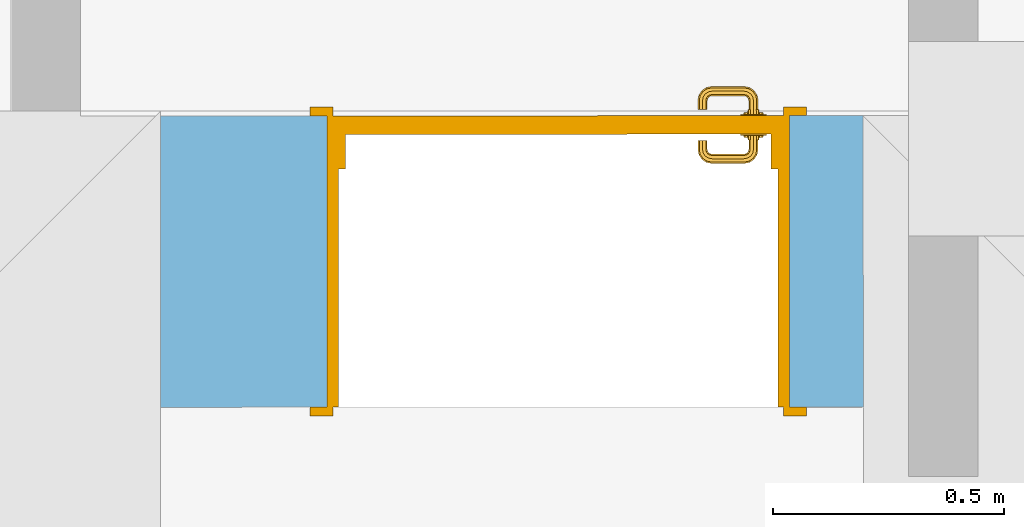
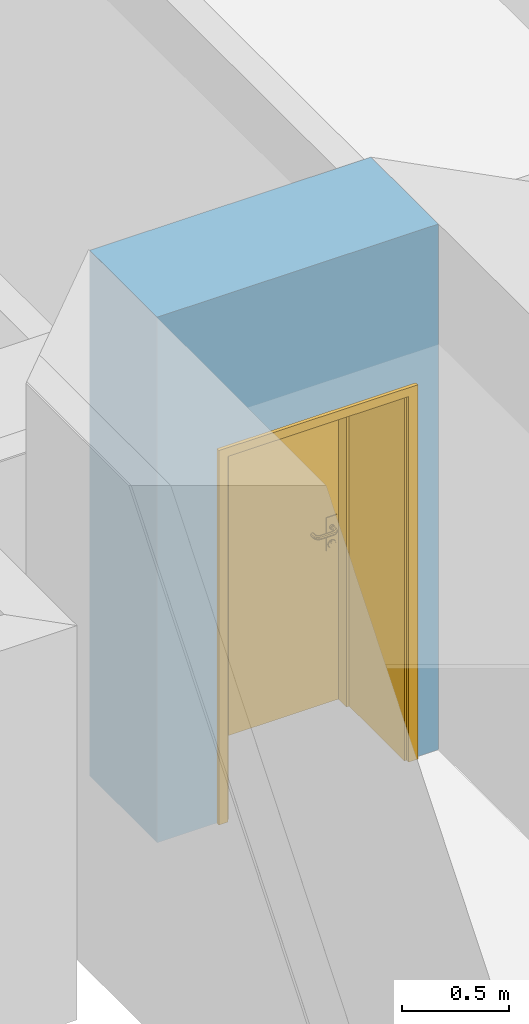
# One storey, part 47 of 127: 1 door, 1 opening, plus 1 element that does not belong to this part.
"""IFC2X3 building model written with IfcOpenShell, lengths in millimetres."""

from ifc_helpers import new_model, entity, si_unit, converted_unit, derived_unit, money_unit, direction, frame, origin_with_axes, origin_2d_with_axis, place, context, subcontext, project, spatial, polyline, rectangle, outline, extrude, open_shell, faceted_brep, surface_model, material, layer, layer_set, layer_usage, type_object, element, fill, save


model = new_model("IFC2X3")

# Units and contexts
model_context = context("Model", 3, precision=1e-05, world=origin_with_axes(), true_north=direction((0.0, 1.0)))
body_context = subcontext(model_context, "Body", "Model", "MODEL_VIEW")
ifc_project = project(units=[si_unit("LENGTHUNIT", "METRE", prefix="MILLI"), si_unit("AREAUNIT", "SQUARE_METRE"), si_unit("VOLUMEUNIT", "CUBIC_METRE"), converted_unit("PLANEANGLEUNIT", "DEGREE", entity("IfcPlaneAngleMeasure", 0.0174532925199), si_unit("PLANEANGLEUNIT", "RADIAN"), dimensions=[0, 0, 0, 0, 0, 0, 0]), si_unit("SOLIDANGLEUNIT", "STERADIAN"), money_unit("EUR"), converted_unit("TIMEUNIT", "Year", entity("IfcTimeMeasure", 31556926.0), si_unit("TIMEUNIT", "SECOND"), dimensions=[0, 0, 1, 0, 0, 0, 0]), si_unit("MASSUNIT", "GRAM", prefix="KILO"), si_unit("THERMODYNAMICTEMPERATUREUNIT", "DEGREE_CELSIUS"), si_unit("LUMINOUSINTENSITYUNIT", "LUMEN"), si_unit("ENERGYUNIT", "JOULE", prefix="MEGA"), derived_unit("THERMALCONDUCTANCEUNIT", [(si_unit("POWERUNIT", "WATT"), 1), (si_unit("LENGTHUNIT", "METRE"), -1), (si_unit("THERMODYNAMICTEMPERATUREUNIT", "KELVIN"), -1)]), derived_unit("SPECIFICHEATCAPACITYUNIT", [(si_unit("ENERGYUNIT", "JOULE"), 1), (si_unit("MASSUNIT", "GRAM", prefix="KILO"), -1), (si_unit("THERMODYNAMICTEMPERATUREUNIT", "KELVIN"), -1)]), derived_unit("MASSDENSITYUNIT", [(si_unit("MASSUNIT", "GRAM", prefix="KILO"), 1), (si_unit("VOLUMEUNIT", "CUBIC_METRE"), -1)])], contexts=[model_context])

# Site, building, storey
site_placement = place(None, origin_with_axes())
site = spatial("IfcSite", under=ifc_project, at=site_placement, Name="Site", CompositionType="ELEMENT")
building_placement = place(site_placement, origin_with_axes())
building = spatial("IfcBuilding", under=site, at=building_placement, Name="Building", CompositionType="ELEMENT")
storey_placement = place(building_placement, origin_with_axes())
storey = spatial("IfcBuildingStorey", under=building, at=storey_placement, Name="1 KORRUS", CompositionType="ELEMENT", Elevation=0.0)

# Wall, opening, door
ifc_material = material(Name="Kivi -Ol.Olev Konstruktsioon")
ifc_layer = layer(ifc_material, 630.0, ventilated="UNKNOWN")
ifc_layer_set = layer_set([ifc_layer], Name="ol.olev ss 630")
ifc_layer_usage = layer_usage(ifc_layer_set, "AXIS2", "POSITIVE", -780.0)
wall_type = type_object("IfcWallType", Name="SS", PredefinedType="NOTDEFINED")
wall_placement = place(storey_placement, frame((40265.7155629, 58799.437168, 0.0), z_axis=(0.0, 0.0, 1.0), x_axis=(-0.99999998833, -0.000152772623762, 0.0)))
wall = element("IfcWallStandardCase", 1, at=wall_placement, inside=storey, type_object=wall_type, material=ifc_layer_usage, Name="ol.olev ss 630", context=body_context, shape_type="SweptSolid", body=[
    extrude(outline(polyline([(630.934460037, -780.000000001), (2149.17759971, -780.0), (2149.50263267, -150.000000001), (630.180068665, -150.000000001), (630.934460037, -780.000000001)])), origin_with_axes(), (0.0, 0.0, 1.0), 3000.0),
])
opening_placement = place(wall_placement, frame((1289.82313186, 0.0, 0.0), z_axis=(0.0, 0.0, 1.0), x_axis=(1.0, 0.0, 0.0)))
opening = element("IfcOpeningElement", 2, at=opening_placement, cuts=wall, Name="Siseuks * Door 22", context=body_context, shape_type="SweptSolid", body=[
    extrude(rectangle(XDim=1000.0, YDim=2100.0, at=origin_2d_with_axis()), frame((1.13686837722e-10, 630.0, 1050.0), z_axis=(0.0, 1.0, 0.0), x_axis=(1.0, 0.0, 0.0)), (0.0, 0.0, -1.0), 1890.0),
    extrude(rectangle(XDim=1074.0, YDim=2137.0, at=origin_2d_with_axis()), frame((0.0, -150.0, 1068.5), z_axis=(0.0, 1.0, 0.0), x_axis=(1.0, 0.0, 0.0)), (0.0, 0.0, 1.0), 630.0),
    extrude(rectangle(XDim=1074.0, YDim=2137.0, at=origin_2d_with_axis()), frame((0.0, -780.000000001, 1068.5), z_axis=(0.0, -1.0, 0.0), x_axis=(1.0, 0.0, 0.0)), (0.0, 0.0, 1.0), 630.0),
])
door_style = type_object("IfcDoorStyle", Name="SU-B138   1\xa0000×2\xa0100", ConstructionType="NOTDEFINED", OperationType="SINGLE_SWING_LEFT", ParameterTakesPrecedence=False, Sizeable=False)
door_placement = place(opening_placement, frame((500.0, -9.09494701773e-10, 0.0), z_axis=(0.0, 0.0, 1.0), x_axis=(-1.0, 0.0, 0.0)))
door = element("IfcDoor", 3, at=door_placement, inside=storey, type_object=door_style, Name="Siseuks * Door 22", OverallHeight=2100.0, OverallWidth=1000.0, context=body_context, shape_type="SurfaceModel", body=[
    faceted_brep([(1000.0, 664.999999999, 0.0), (1000.0, 150.0, 0.0), (975.0, 150.0, 0.0), (975.0, 664.999999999, 0.0), (1000.0, 664.999999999, 2100.0), (1000.0, 150.0, 2100.0), (975.0, 150.0, 2075.0), (975.0, 664.999999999, 2075.0)], [[[0, 1, 2, 3]], [[4, 5, 1, 0]], [[1, 5, 6, 2]], [[3, 2, 6, 7]], [[0, 3, 7, 4]], [[7, 6, 5, 4]]]),
    faceted_brep([(-1.13686837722e-10, 664.999999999, 2100.0), (-1.13686837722e-10, 150.0, 2100.0), (25.0, 149.999999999, 2075.0), (25.0, 664.999999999, 2075.0), (-1.13686837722e-10, 664.999999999, 0.0), (-1.13686837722e-10, 150.0, 0.0), (25.0, 149.999999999, 0.0), (25.0, 664.999999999, 0.0)], [[[0, 1, 2, 3]], [[4, 5, 1, 0]], [[1, 5, 6, 2]], [[3, 2, 6, 7]], [[0, 3, 7, 4]], [[7, 6, 5, 4]]]),
    faceted_brep([(975.0, 664.999999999, 2075.0), (975.0, 150.0, 2075.0), (25.0, 149.999999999, 2075.0), (25.0, 664.999999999, 2075.0), (1000.0, 664.999999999, 2100.0), (1000.0, 150.0, 2100.0), (-1.13686837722e-10, 150.0, 2100.0), (-1.13686837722e-10, 664.999999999, 2100.0)], [[[0, 1, 2, 3]], [[4, 5, 1, 0]], [[1, 5, 6, 2]], [[3, 2, 6, 7]], [[0, 3, 7, 4]], [[7, 6, 5, 4]]]),
    faceted_brep([(1037.0, 130.999999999, 0.0), (987.0, 130.999999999, 0.0), (987.0, 149.999999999, 0.0), (1037.0, 150.0, 0.0), (1037.0, 130.999999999, 2137.0), (987.0, 130.999999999, 2087.0), (987.0, 149.999999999, 2087.0), (1037.0, 150.0, 2137.0)], [[[0, 1, 2, 3]], [[0, 4, 5, 1]], [[1, 5, 6, 2]], [[3, 2, 6, 7]], [[4, 0, 3, 7]], [[5, 4, 7, 6]]]),
    faceted_brep([(-36.9999999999, 130.999999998, 2137.0), (13.0, 130.999999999, 2087.0), (13.0, 149.999999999, 2087.0), (-36.9999999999, 149.999999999, 2137.0), (-36.9999999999, 130.999999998, 0.0), (13.0, 130.999999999, 0.0), (13.0, 149.999999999, 0.0), (-36.9999999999, 149.999999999, 0.0)], [[[0, 1, 2, 3]], [[0, 4, 5, 1]], [[1, 5, 6, 2]], [[3, 2, 6, 7]], [[4, 0, 3, 7]], [[5, 4, 7, 6]]]),
    faceted_brep([(1037.0, 130.999999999, 2137.0), (987.0, 130.999999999, 2087.0), (987.0, 149.999999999, 2087.0), (1037.0, 150.0, 2137.0), (-36.9999999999, 130.999999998, 2137.0), (13.0, 130.999999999, 2087.0), (13.0, 149.999999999, 2087.0), (-36.9999999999, 149.999999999, 2137.0)], [[[0, 1, 2, 3]], [[0, 4, 5, 1]], [[1, 5, 6, 2]], [[3, 2, 6, 7]], [[4, 0, 3, 7]], [[5, 4, 7, 6]]]),
    faceted_brep([(1037.0, 798.999999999, 0.0), (1037.0, 780.0, 0.0), (987.0, 780.0, 0.0), (987.0, 798.999999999, 0.0), (1037.0, 798.999999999, 2137.0), (1037.0, 780.0, 2137.0), (987.0, 780.0, 2087.0), (987.0, 798.999999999, 2087.0)], [[[0, 1, 2, 3]], [[4, 5, 1, 0]], [[1, 5, 6, 2]], [[3, 2, 6, 7]], [[0, 3, 7, 4]], [[7, 6, 5, 4]]]),
    faceted_brep([(-37.0, 799.0, 2137.0), (-37.0, 780.0, 2137.0), (13.0, 779.999999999, 2087.0), (12.9999999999, 798.999999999, 2087.0), (-37.0, 799.0, 0.0), (-37.0, 780.0, 0.0), (13.0, 779.999999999, 0.0), (12.9999999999, 798.999999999, 0.0)], [[[0, 1, 2, 3]], [[4, 5, 1, 0]], [[1, 5, 6, 2]], [[3, 2, 6, 7]], [[0, 3, 7, 4]], [[7, 6, 5, 4]]]),
    faceted_brep([(1037.0, 798.999999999, 2137.0), (1037.0, 780.0, 2137.0), (987.0, 780.0, 2087.0), (987.0, 798.999999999, 2087.0), (-37.0, 799.0, 2137.0), (-37.0, 780.0, 2137.0), (13.0, 779.999999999, 2087.0), (12.9999999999, 798.999999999, 2087.0)], [[[0, 1, 2, 3]], [[4, 5, 1, 0]], [[1, 5, 6, 2]], [[3, 2, 6, 7]], [[0, 3, 7, 4]], [[7, 6, 5, 4]]]),
    faceted_brep([(960.0, 739.999999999, 0.0), (960.0, 664.999999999, 0.0), (960.0, 664.999999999, 2060.0), (960.0, 739.999999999, 2060.0), (972.0, 740.0, 0.0), (972.0, 779.999999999, 0.0), (1000.0, 780.0, 0.0), (1000.0, 664.999999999, 0.0), (1000.0, 664.999999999, 2060.0), (972.0, 740.0, 2060.0), (1000.0, 780.0, 2060.0), (972.0, 779.999999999, 2060.0)], [[[0, 1, 2, 3]], [[4, 5, 6, 7, 1, 0]], [[1, 7, 8, 2]], [[9, 3, 2, 8, 10, 11]], [[9, 4, 0, 3]], [[11, 5, 4, 9]], [[11, 10, 6, 5]], [[6, 10, 8, 7]]]),
    faceted_brep([(27.9999999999, 740.0, 2060.0), (28.0, 780.0, 2060.0), (0.0, 780.0, 2060.0), (-1.13686837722e-10, 664.999999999, 2060.0), (40.0, 664.999999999, 2060.0), (40.0, 740.0, 2060.0), (27.9999999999, 740.0, 0.0), (28.0, 780.0, 0.0), (0.0, 780.0, 0.0), (-1.13686837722e-10, 664.999999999, 0.0), (40.0, 664.999999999, 0.0), (40.0, 740.0, 0.0)], [[[0, 1, 2, 3, 4, 5]], [[0, 6, 7, 1]], [[7, 8, 2, 1]], [[2, 8, 9, 3]], [[3, 9, 10, 4]], [[5, 4, 10, 11]], [[5, 11, 6, 0]], [[6, 11, 10, 9, 8, 7]]]),
    faceted_brep([(972.0, 779.999999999, 2072.0), (28.0, 780.0, 2072.0), (28.0, 780.0, 2060.0), (0.0, 780.0, 2060.0), (0.0, 780.0, 2100.0), (1000.0, 780.0, 2100.0), (1000.0, 780.0, 2060.0), (972.0, 779.999999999, 2060.0), (972.0, 740.0, 2072.0), (27.9999999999, 740.0, 2072.0), (27.9999999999, 740.0, 2060.0), (40.0, 740.0, 2060.0), (40.0, 664.999999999, 2060.0), (-1.13686837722e-10, 664.999999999, 2060.0), (-1.13686837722e-10, 664.999999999, 2100.0), (1000.0, 664.999999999, 2100.0), (1000.0, 664.999999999, 2060.0), (972.0, 740.0, 2060.0), (960.0, 664.999999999, 2060.0), (960.0, 739.999999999, 2060.0)], [[[0, 1, 2, 3, 4, 5, 6, 7]], [[0, 8, 9, 1]], [[1, 9, 10, 2]], [[10, 11, 12, 13, 3, 2]], [[4, 3, 13, 14]], [[5, 4, 14, 15]], [[6, 5, 15, 16]], [[17, 7, 6, 16, 18, 19]], [[7, 17, 8, 0]], [[10, 9, 8, 17, 19, 11]], [[19, 18, 12, 11]], [[12, 18, 16, 15, 14, 13]]]),
    faceted_brep([(950.5, 739.999999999, 1060.0), (893.5, 739.999999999, 1060.0), (893.5, 737.0, 1060.0), (950.5, 736.999999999, 1060.0), (950.5, 739.999999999, 870.0), (893.5, 739.999999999, 870.0), (893.5, 737.0, 870.0), (950.5, 736.999999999, 870.0)], [[[0, 1, 2, 3]], [[0, 4, 5, 1]], [[1, 5, 6, 2]], [[3, 2, 6, 7]], [[4, 0, 3, 7]], [[5, 4, 7, 6]]]),
    surface_model("IfcShellBasedSurfaceModel", [(912.0, 727.0, 1000.0), (914.928932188, 727.0, 992.928932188), (914.928932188, 707.696439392, 992.928932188), (912.0, 707.984914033, 1000.0), (922.0, 726.999999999, 990.0), (922.0, 707.0, 990.0), (913.816790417, 702.105325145, 992.928932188), (911.057796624, 703.248137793, 1000.0), (914.928932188, 727.0, 1007.07106781), (914.928932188, 707.696439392, 1007.07106781), (929.071067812, 726.999999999, 992.928932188), (929.071067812, 706.303560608, 992.928932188), (920.47759065, 699.346331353, 990.0), (911.044179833, 697.955820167, 992.928932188), (908.932537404, 700.067462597, 1000.0), (913.816790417, 702.105325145, 1007.07106781), (922.0, 726.999999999, 1010.0), (922.0, 707.0, 1010.0), (932.0, 726.999999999, 1000.0), (932.0, 706.015085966, 1000.0), (927.138390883, 696.587337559, 992.928932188), (916.142135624, 692.857864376, 990.0), (906.894674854, 695.183209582, 992.928932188), (905.751862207, 697.942203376, 1000.0), (911.044179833, 697.955820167, 1007.07106781), (920.47759065, 699.346331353, 1010.0), (929.071067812, 726.999999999, 1007.07106781), (929.071067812, 706.303560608, 1007.07106781), (929.897384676, 695.444524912, 1000.0), (921.240091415, 687.759908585, 992.928932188), (909.653668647, 688.522409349, 990.0), (901.303560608, 694.071067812, 992.928932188), (901.015085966, 696.999999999, 1000.0), (906.894674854, 695.183209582, 1007.07106781), (916.142135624, 692.857864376, 1010.0), (927.138390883, 696.587337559, 1007.07106781), (923.351733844, 685.648266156, 1000.0), (912.41266244, 681.861609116, 992.928932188), (902.0, 686.999999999, 990.0), (832.696439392, 694.071067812, 992.928932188), (832.984914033, 696.999999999, 1000.0), (901.303560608, 694.071067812, 1007.07106781), (909.653668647, 688.522409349, 1010.0), (921.240091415, 687.759908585, 1007.07106781), (913.555475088, 679.102615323, 1000.0), (902.696439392, 679.928932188, 992.928932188), (832.0, 686.999999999, 990.0), (827.105325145, 695.183209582, 992.928932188), (828.248137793, 697.942203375, 1000.0), (832.696439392, 694.071067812, 1007.07106781), (902.0, 686.999999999, 1010.0), (912.41266244, 681.861609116, 1007.07106781), (902.984914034, 677.0, 1000.0), (831.303560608, 679.928932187, 992.928932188), (824.346331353, 688.522409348, 990.0), (822.955820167, 697.955820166, 992.928932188), (825.067462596, 700.067462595, 1000.0), (827.105325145, 695.183209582, 1007.07106781), (832.0, 686.999999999, 1010.0), (902.696439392, 679.928932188, 1007.07106781), (831.015085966, 677.0, 1000.0), (821.58733756, 681.861609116, 992.928932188), (817.857864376, 692.857864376, 990.0), (820.183209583, 702.105325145, 992.928932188), (822.942203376, 703.248137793, 1000.0), (822.955820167, 697.955820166, 1007.07106781), (824.346331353, 688.522409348, 1010.0), (831.303560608, 679.928932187, 1007.07106781), (820.444524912, 679.102615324, 1000.0), (812.759908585, 687.759908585, 992.928932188), (813.52240935, 699.346331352, 990.0), (819.071067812, 707.696439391, 992.928932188), (822.0, 707.984914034, 1000.0), (820.183209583, 702.105325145, 1007.07106781), (817.857864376, 692.857864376, 1010.0), (821.58733756, 681.861609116, 1007.07106781), (810.648266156, 685.648266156, 1000.0), (806.861609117, 696.587337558, 992.928932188), (812.0, 706.999999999, 990.0), (819.071067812, 727.0, 992.928932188), (822.0, 726.999999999, 1000.0), (819.071067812, 707.696439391, 1007.07106781), (813.52240935, 699.346331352, 1010.0), (812.759908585, 687.759908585, 1007.07106781), (804.102615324, 695.444524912, 1000.0), (804.928932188, 706.303560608, 992.928932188), (812.0, 726.999999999, 990.0), (804.928932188, 727.0, 992.928932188), (802.0, 726.999999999, 1000.0), (804.928932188, 727.0, 1007.07106781), (812.0, 726.999999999, 1010.0), (819.071067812, 727.0, 1007.07106781), (812.0, 706.999999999, 1010.0), (806.861609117, 696.587337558, 1007.07106781), (802.0, 706.015085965, 1000.0), (804.928932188, 706.303560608, 1007.07106781)], [open_shell([[[0, 1, 2, 3]], [[1, 4, 5, 2]], [[3, 2, 6, 7]], [[8, 0, 3, 9]], [[4, 10, 11, 5]], [[2, 5, 12, 6]], [[7, 6, 13, 14]], [[9, 3, 7, 15]], [[16, 8, 9, 17]], [[10, 18, 19, 11]], [[5, 11, 20, 12]], [[6, 12, 21, 13]], [[14, 13, 22, 23]], [[15, 7, 14, 24]], [[17, 9, 15, 25]], [[26, 16, 17, 27]], [[18, 26, 27, 19]], [[11, 19, 28, 20]], [[12, 20, 29, 21]], [[13, 21, 30, 22]], [[23, 22, 31, 32]], [[24, 14, 23, 33]], [[25, 15, 24, 34]], [[27, 17, 25, 35]], [[19, 27, 35, 28]], [[20, 28, 36, 29]], [[21, 29, 37, 30]], [[22, 30, 38, 31]], [[32, 31, 39, 40]], [[33, 23, 32, 41]], [[34, 24, 33, 42]], [[35, 25, 34, 43]], [[28, 35, 43, 36]], [[29, 36, 44, 37]], [[30, 37, 45, 38]], [[31, 38, 46, 39]], [[40, 39, 47, 48]], [[41, 32, 40, 49]], [[42, 33, 41, 50]], [[43, 34, 42, 51]], [[36, 43, 51, 44]], [[37, 44, 52, 45]], [[38, 45, 53, 46]], [[39, 46, 54, 47]], [[48, 47, 55, 56]], [[49, 40, 48, 57]], [[50, 41, 49, 58]], [[51, 42, 50, 59]], [[44, 51, 59, 52]], [[45, 52, 60, 53]], [[46, 53, 61, 54]], [[47, 54, 62, 55]], [[56, 55, 63, 64]], [[57, 48, 56, 65]], [[58, 49, 57, 66]], [[59, 50, 58, 67]], [[52, 59, 67, 60]], [[53, 60, 68, 61]], [[54, 61, 69, 62]], [[55, 62, 70, 63]], [[64, 63, 71, 72]], [[65, 56, 64, 73]], [[66, 57, 65, 74]], [[67, 58, 66, 75]], [[60, 67, 75, 68]], [[61, 68, 76, 69]], [[62, 69, 77, 70]], [[63, 70, 78, 71]], [[72, 71, 79, 80]], [[73, 64, 72, 81]], [[74, 65, 73, 82]], [[75, 66, 74, 83]], [[68, 75, 83, 76]], [[69, 76, 84, 77]], [[70, 77, 85, 78]], [[71, 78, 86, 79]], [[80, 79, 86, 87, 88, 89, 90, 91]], [[81, 72, 80, 91]], [[82, 73, 81, 92]], [[83, 74, 82, 93]], [[76, 83, 93, 84]], [[77, 84, 94, 85]], [[78, 85, 87, 86]], [[85, 94, 88, 87]], [[94, 95, 89, 88]], [[95, 92, 90, 89]], [[92, 81, 91, 90]], [[93, 82, 92, 95]], [[84, 93, 95, 94]]])]),
    faceted_brep([(911.607695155, 726.999999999, 994.0), (910.0, 726.999999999, 1000.0), (909.0, 736.999999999, 1000.0), (910.741669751, 737.0, 993.5), (916.0, 727.0, 989.607695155), (922.0, 726.999999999, 988.0), (928.0, 726.999999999, 989.607695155), (932.392304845, 727.0, 994.0), (934.0, 727.0, 1000.0), (932.392304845, 727.0, 1006.0), (928.0, 726.999999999, 1010.39230485), (922.0, 726.999999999, 1012.0), (916.0, 727.0, 1010.39230485), (911.607695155, 726.999999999, 1006.0), (910.741669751, 737.0, 1006.5), (915.5, 737.0, 1011.25833025), (922.0, 737.0, 1013.0), (928.5, 736.999999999, 1011.25833025), (933.258330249, 737.0, 1006.5), (935.0, 737.0, 1000.0), (933.258330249, 737.0, 993.5), (928.5, 736.999999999, 988.741669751), (922.0, 737.0, 987.0), (915.5, 737.0, 988.741669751)], [[[0, 1, 2, 3]], [[1, 0, 4, 5, 6, 7, 8, 9, 10, 11, 12, 13]], [[1, 13, 14, 2]], [[2, 14, 15, 16, 17, 18, 19, 20, 21, 22, 23, 3]], [[4, 0, 3, 23]], [[5, 4, 23, 22]], [[6, 5, 22, 21]], [[7, 6, 21, 20]], [[8, 7, 20, 19]], [[9, 8, 19, 18]], [[10, 9, 18, 17]], [[11, 10, 17, 16]], [[12, 11, 16, 15]], [[13, 12, 15, 14]]]),
    faceted_brep([(904.679491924, 732.999999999, 895.0), (902.0, 732.999999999, 905.0), (900.0, 737.0, 905.0), (902.947441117, 736.999999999, 894.0), (912.0, 732.999999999, 887.679491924), (922.0, 732.999999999, 885.0), (932.0, 732.999999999, 887.679491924), (939.320508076, 732.999999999, 895.0), (942.0, 733.0, 905.0), (939.320508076, 732.999999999, 915.0), (932.0, 732.999999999, 922.320508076), (922.0, 732.999999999, 925.0), (912.0, 732.999999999, 922.320508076), (904.679491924, 732.999999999, 915.0), (902.947441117, 736.999999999, 916.0), (911.0, 737.0, 924.052558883), (922.0, 737.0, 927.0), (933.0, 737.0, 924.052558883), (941.052558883, 737.0, 916.0), (944.0, 737.0, 905.0), (941.052558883, 737.0, 894.0), (933.0, 737.0, 885.947441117), (922.0, 737.0, 883.0), (911.0, 737.0, 885.947441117)], [[[0, 1, 2, 3]], [[1, 0, 4, 5, 6, 7, 8, 9, 10, 11, 12, 13]], [[1, 13, 14, 2]], [[2, 14, 15, 16, 17, 18, 19, 20, 21, 22, 23, 3]], [[4, 0, 3, 23]], [[5, 4, 23, 22]], [[6, 5, 22, 21]], [[7, 6, 21, 20]], [[8, 7, 20, 19]], [[9, 8, 19, 18]], [[10, 9, 18, 17]], [[11, 10, 17, 16]], [[12, 11, 16, 15]], [[13, 12, 15, 14]]]),
    faceted_brep([(917.050252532, 731.0, 909.050252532), (915.0, 731.0, 914.0), (914.0, 732.999999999, 914.0), (916.34314575, 733.0, 908.343145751), (922.0, 731.0, 907.0), (926.949747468, 730.999999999, 909.050252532), (929.0, 731.0, 914.0), (926.949747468, 730.999999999, 918.949747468), (922.0, 731.0, 921.0), (917.050252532, 731.0, 918.949747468), (916.34314575, 733.0, 919.656854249), (922.0, 732.999999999, 922.0), (927.656854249, 732.999999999, 919.656854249), (930.0, 732.999999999, 914.0), (927.656854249, 732.999999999, 908.343145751), (922.0, 732.999999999, 906.0)], [[[0, 1, 2, 3]], [[1, 0, 4, 5, 6, 7, 8, 9]], [[1, 9, 10, 2]], [[2, 10, 11, 12, 13, 14, 15, 3]], [[4, 0, 3, 15]], [[5, 4, 15, 14]], [[6, 5, 14, 13]], [[7, 6, 13, 12]], [[8, 7, 12, 11]], [[9, 8, 11, 10]]]),
    faceted_brep([(950.5, 780.0, 1060.0), (950.5, 782.999999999, 1060.0), (893.5, 782.999999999, 1060.0), (893.5, 779.999999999, 1060.0), (950.5, 780.0, 870.0), (950.5, 782.999999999, 870.0), (893.5, 782.999999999, 870.0), (893.5, 779.999999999, 870.0)], [[[0, 1, 2, 3]], [[4, 5, 1, 0]], [[1, 5, 6, 2]], [[3, 2, 6, 7]], [[0, 3, 7, 4]], [[7, 6, 5, 4]]]),
    surface_model("IfcShellBasedSurfaceModel", [(912.0, 792.999999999, 1000.0), (912.0, 812.015085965, 1000.0), (914.928932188, 812.303560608, 992.928932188), (914.928932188, 792.999999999, 992.928932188), (914.928932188, 792.999999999, 1007.07106781), (914.928932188, 812.303560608, 1007.07106781), (911.057796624, 816.751862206, 1000.0), (913.816790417, 817.894674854, 992.928932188), (922.0, 813.0, 990.0), (922.0, 793.0, 990.0), (922.0, 793.0, 1010.0), (922.0, 813.0, 1010.0), (913.816790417, 817.894674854, 1007.07106781), (908.932537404, 819.932537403, 1000.0), (911.044179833, 822.044179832, 992.928932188), (920.47759065, 820.653668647, 990.0), (929.071067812, 813.696439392, 992.928932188), (929.071067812, 792.999999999, 992.928932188), (929.071067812, 792.999999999, 1007.07106781), (929.071067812, 813.696439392, 1007.07106781), (920.47759065, 820.653668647, 1010.0), (911.044179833, 822.044179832, 1007.07106781), (905.751862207, 822.057796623, 1000.0), (906.894674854, 824.816790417, 992.928932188), (916.142135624, 827.142135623, 990.0), (927.138390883, 823.41266244, 992.928932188), (932.0, 813.984914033, 1000.0), (932.0, 793.0, 1000.0), (927.138390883, 823.41266244, 1007.07106781), (916.142135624, 827.142135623, 1010.0), (906.894674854, 824.816790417, 1007.07106781), (901.015085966, 822.999999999, 1000.0), (901.303560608, 825.928932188, 992.928932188), (909.653668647, 831.477590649, 990.0), (921.240091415, 832.240091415, 992.928932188), (929.897384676, 824.555475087, 1000.0), (921.240091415, 832.240091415, 1007.07106781), (909.653668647, 831.477590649, 1010.0), (901.303560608, 825.928932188, 1007.07106781), (832.984914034, 822.999999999, 1000.0), (832.696439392, 825.928932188, 992.928932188), (902.0, 833.0, 990.0), (912.41266244, 838.138390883, 992.928932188), (923.351733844, 834.351733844, 1000.0), (912.41266244, 838.138390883, 1007.07106781), (902.0, 833.0, 1010.0), (832.696439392, 825.928932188, 1007.07106781), (828.248137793, 822.057796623, 1000.0), (827.105325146, 824.816790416, 992.928932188), (832.0, 833.0, 990.0), (902.696439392, 840.071067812, 992.928932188), (913.555475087, 840.897384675, 1000.0), (902.696439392, 840.071067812, 1007.07106781), (832.0, 833.0, 1010.0), (827.105325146, 824.816790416, 1007.07106781), (825.067462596, 819.932537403, 1000.0), (822.955820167, 822.044179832, 992.928932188), (824.346331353, 831.47759065, 990.0), (831.303560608, 840.071067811, 992.928932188), (902.984914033, 843.0, 1000.0), (831.303560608, 840.071067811, 1007.07106781), (824.346331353, 831.47759065, 1010.0), (822.955820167, 822.044179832, 1007.07106781), (822.942203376, 816.751862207, 1000.0), (820.183209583, 817.894674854, 992.928932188), (817.857864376, 827.142135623, 990.0), (821.58733756, 838.138390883, 992.928932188), (831.015085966, 843.0, 1000.0), (821.58733756, 838.138390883, 1007.07106781), (817.857864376, 827.142135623, 1010.0), (820.183209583, 817.894674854, 1007.07106781), (822.0, 812.015085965, 1000.0), (819.071067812, 812.303560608, 992.928932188), (813.52240935, 820.653668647, 990.0), (812.759908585, 832.240091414, 992.928932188), (820.444524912, 840.897384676, 1000.0), (812.759908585, 832.240091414, 1007.07106781), (813.52240935, 820.653668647, 1010.0), (819.071067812, 812.303560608, 1007.07106781), (822.0, 792.999999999, 1000.0), (819.071067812, 792.999999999, 992.928932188), (812.0, 812.999999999, 990.0), (806.861609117, 823.412662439, 992.928932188), (810.648266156, 834.351733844, 1000.0), (806.861609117, 823.412662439, 1007.07106781), (812.0, 812.999999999, 1010.0), (819.071067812, 792.999999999, 1007.07106781), (812.0, 792.999999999, 1010.0), (804.928932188, 792.999999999, 1007.07106781), (802.0, 793.0, 1000.0), (804.928932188, 792.999999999, 992.928932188), (812.0, 792.999999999, 990.0), (804.928932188, 813.696439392, 992.928932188), (804.102615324, 824.555475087, 1000.0), (804.928932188, 813.696439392, 1007.07106781), (802.0, 813.984914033, 1000.0)], [open_shell([[[0, 1, 2, 3]], [[4, 5, 1, 0]], [[1, 6, 7, 2]], [[3, 2, 8, 9]], [[10, 11, 5, 4]], [[5, 12, 6, 1]], [[6, 13, 14, 7]], [[2, 7, 15, 8]], [[9, 8, 16, 17]], [[18, 19, 11, 10]], [[11, 20, 12, 5]], [[12, 21, 13, 6]], [[13, 22, 23, 14]], [[7, 14, 24, 15]], [[8, 15, 25, 16]], [[17, 16, 26, 27]], [[27, 26, 19, 18]], [[19, 28, 20, 11]], [[20, 29, 21, 12]], [[21, 30, 22, 13]], [[22, 31, 32, 23]], [[14, 23, 33, 24]], [[15, 24, 34, 25]], [[16, 25, 35, 26]], [[26, 35, 28, 19]], [[28, 36, 29, 20]], [[29, 37, 30, 21]], [[30, 38, 31, 22]], [[31, 39, 40, 32]], [[23, 32, 41, 33]], [[24, 33, 42, 34]], [[25, 34, 43, 35]], [[35, 43, 36, 28]], [[36, 44, 37, 29]], [[37, 45, 38, 30]], [[38, 46, 39, 31]], [[39, 47, 48, 40]], [[32, 40, 49, 41]], [[33, 41, 50, 42]], [[34, 42, 51, 43]], [[43, 51, 44, 36]], [[44, 52, 45, 37]], [[45, 53, 46, 38]], [[46, 54, 47, 39]], [[47, 55, 56, 48]], [[40, 48, 57, 49]], [[41, 49, 58, 50]], [[42, 50, 59, 51]], [[51, 59, 52, 44]], [[52, 60, 53, 45]], [[53, 61, 54, 46]], [[54, 62, 55, 47]], [[55, 63, 64, 56]], [[48, 56, 65, 57]], [[49, 57, 66, 58]], [[50, 58, 67, 59]], [[59, 67, 60, 52]], [[60, 68, 61, 53]], [[61, 69, 62, 54]], [[62, 70, 63, 55]], [[63, 71, 72, 64]], [[56, 64, 73, 65]], [[57, 65, 74, 66]], [[58, 66, 75, 67]], [[67, 75, 68, 60]], [[68, 76, 69, 61]], [[69, 77, 70, 62]], [[70, 78, 71, 63]], [[71, 79, 80, 72]], [[64, 72, 81, 73]], [[65, 73, 82, 74]], [[66, 74, 83, 75]], [[75, 83, 76, 68]], [[76, 84, 77, 69]], [[77, 85, 78, 70]], [[78, 86, 79, 71]], [[79, 86, 87, 88, 89, 90, 91, 80]], [[72, 80, 91, 81]], [[73, 81, 92, 82]], [[74, 82, 93, 83]], [[83, 93, 84, 76]], [[84, 94, 85, 77]], [[85, 87, 86, 78]], [[94, 88, 87, 85]], [[95, 89, 88, 94]], [[92, 90, 89, 95]], [[81, 91, 90, 92]], [[82, 92, 95, 93]], [[93, 95, 94, 84]]])]),
    faceted_brep([(911.607695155, 793.0, 994.0), (910.741669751, 782.999999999, 993.5), (909.0, 782.999999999, 1000.0), (910.0, 793.0, 1000.0), (916.0, 792.999999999, 989.607695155), (915.5, 782.999999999, 988.741669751), (922.0, 782.999999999, 987.0), (928.5, 782.999999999, 988.741669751), (933.258330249, 782.999999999, 993.5), (935.0, 782.999999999, 1000.0), (933.258330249, 782.999999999, 1006.5), (928.5, 782.999999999, 1011.25833025), (922.0, 782.999999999, 1013.0), (915.5, 782.999999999, 1011.25833025), (910.741669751, 782.999999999, 1006.5), (911.607695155, 793.0, 1006.0), (916.0, 792.999999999, 1010.39230485), (922.0, 793.0, 1012.0), (928.0, 793.0, 1010.39230485), (932.392304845, 792.999999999, 1006.0), (934.0, 792.999999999, 1000.0), (932.392304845, 792.999999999, 994.0), (928.0, 793.0, 989.607695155), (922.0, 793.0, 988.0)], [[[0, 1, 2, 3]], [[4, 5, 1, 0]], [[2, 1, 5, 6, 7, 8, 9, 10, 11, 12, 13, 14]], [[3, 2, 14, 15]], [[3, 15, 16, 17, 18, 19, 20, 21, 22, 23, 4, 0]], [[23, 6, 5, 4]], [[22, 7, 6, 23]], [[21, 8, 7, 22]], [[20, 9, 8, 21]], [[19, 10, 9, 20]], [[18, 11, 10, 19]], [[17, 12, 11, 18]], [[16, 13, 12, 17]], [[15, 14, 13, 16]]]),
    faceted_brep([(904.679491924, 786.999999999, 895.0), (902.947441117, 782.999999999, 894.0), (900.0, 782.999999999, 905.0), (902.0, 786.999999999, 905.0), (912.0, 786.999999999, 887.679491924), (911.0, 782.999999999, 885.947441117), (922.0, 782.999999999, 883.0), (933.0, 782.999999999, 885.947441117), (941.052558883, 782.999999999, 894.0), (944.0, 782.999999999, 905.0), (941.052558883, 782.999999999, 916.0), (933.0, 782.999999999, 924.052558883), (922.0, 782.999999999, 927.0), (911.0, 782.999999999, 924.052558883), (902.947441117, 782.999999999, 916.0), (904.679491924, 786.999999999, 915.0), (912.0, 786.999999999, 922.320508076), (922.0, 786.999999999, 925.0), (932.0, 786.999999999, 922.320508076), (939.320508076, 786.999999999, 915.0), (942.0, 786.999999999, 905.0), (939.320508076, 786.999999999, 895.0), (932.0, 786.999999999, 887.679491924), (922.0, 786.999999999, 885.0)], [[[0, 1, 2, 3]], [[4, 5, 1, 0]], [[2, 1, 5, 6, 7, 8, 9, 10, 11, 12, 13, 14]], [[3, 2, 14, 15]], [[3, 15, 16, 17, 18, 19, 20, 21, 22, 23, 4, 0]], [[23, 6, 5, 4]], [[22, 7, 6, 23]], [[21, 8, 7, 22]], [[20, 9, 8, 21]], [[19, 10, 9, 20]], [[18, 11, 10, 19]], [[17, 12, 11, 18]], [[16, 13, 12, 17]], [[15, 14, 13, 16]]]),
    faceted_brep([(917.050252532, 788.999999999, 909.050252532), (916.34314575, 786.999999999, 908.343145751), (914.0, 786.999999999, 914.0), (915.0, 788.999999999, 914.0), (922.0, 788.999999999, 907.0), (922.0, 786.999999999, 906.0), (927.65685425, 786.999999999, 908.343145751), (930.0, 786.999999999, 914.0), (927.65685425, 786.999999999, 919.656854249), (922.0, 786.999999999, 922.0), (916.34314575, 786.999999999, 919.656854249), (917.050252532, 788.999999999, 918.949747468), (922.0, 788.999999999, 921.0), (926.949747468, 788.999999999, 918.949747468), (929.0, 788.999999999, 914.0), (926.949747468, 788.999999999, 909.050252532)], [[[0, 1, 2, 3]], [[4, 5, 1, 0]], [[2, 1, 5, 6, 7, 8, 9, 10]], [[3, 2, 10, 11]], [[3, 11, 12, 13, 14, 15, 4, 0]], [[15, 6, 5, 4]], [[14, 7, 6, 15]], [[13, 8, 7, 14]], [[12, 9, 8, 13]], [[11, 10, 9, 12]]]),
    faceted_brep([(28.0, 780.0, 0.0), (972.0, 779.999999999, 0.0), (972.0, 740.0, 0.0), (27.9999999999, 740.0, 0.0), (28.0, 780.0, 2072.0), (972.0, 779.999999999, 2072.0), (972.0, 740.0, 2072.0), (27.9999999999, 740.0, 2072.0)], [[[0, 1, 2, 3]], [[0, 4, 5, 1]], [[1, 5, 6, 2]], [[3, 2, 6, 7]], [[4, 0, 3, 7]], [[5, 4, 7, 6]]]),
])
fill(opening, door)

save(model, "model.ifc")
